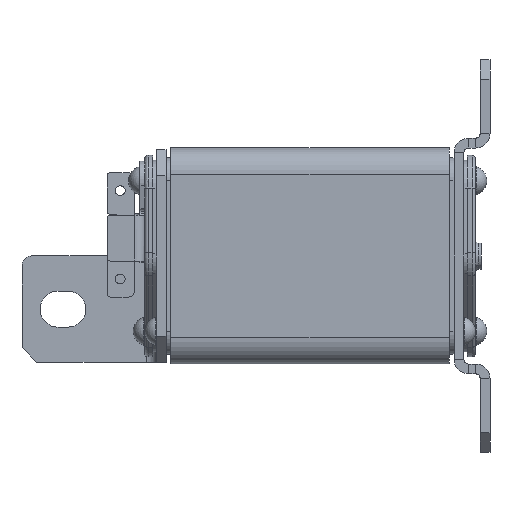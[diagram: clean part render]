
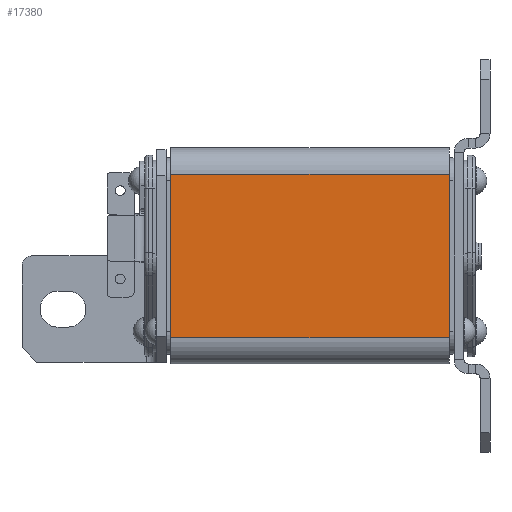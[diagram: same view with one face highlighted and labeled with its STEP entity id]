
A CAD part, left-side view. The second image highlights one B-rep face of the part: STEP entity #17380.
In plain terms, the highlighted planar face has unit normal (-1, 0, 0).
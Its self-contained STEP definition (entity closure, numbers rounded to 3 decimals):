
#2664 = VERTEX_POINT ( 'NONE', #6702 ) ;
#2850 = ORIENTED_EDGE ( 'NONE', *, *, #13664, .T. ) ;
#3760 = EDGE_CURVE ( 'NONE', #4038, #12323, #19824, .T. ) ;
#4038 = VERTEX_POINT ( 'NONE', #15359 ) ;
#4718 = CARTESIAN_POINT ( 'NONE',  ( -33., -42.5, 25. ) ) ;
#4948 = FACE_OUTER_BOUND ( 'NONE', #18845, .T. ) ;
#5195 = LINE ( 'NONE', #15610, #28390 ) ;
#5823 = ORIENTED_EDGE ( 'NONE', *, *, #3760, .F. ) ;
#6482 = VERTEX_POINT ( 'NONE', #15831 ) ;
#6602 = EDGE_CURVE ( 'NONE', #6482, #12323, #8870, .T. ) ;
#6702 = CARTESIAN_POINT ( 'NONE',  ( -33., 42.5, -25. ) ) ;
#7046 = DIRECTION ( 'NONE',  ( 0., -1., 0. ) ) ;
#7802 = LINE ( 'NONE', #14991, #22347 ) ;
#8870 = LINE ( 'NONE', #27105, #25809 ) ;
#9676 = DIRECTION ( 'NONE',  ( 1., 0., 0. ) ) ;
#11967 = EDGE_CURVE ( 'NONE', #2664, #4038, #5195, .T. ) ;
#12323 = VERTEX_POINT ( 'NONE', #4718 ) ;
#12889 = DIRECTION ( 'NONE',  ( 0., -1., 0. ) ) ;
#13664 = EDGE_CURVE ( 'NONE', #2664, #6482, #7802, .T. ) ;
#13728 = DIRECTION ( 'NONE',  ( 0., 0., 1. ) ) ;
#14143 = CARTESIAN_POINT ( 'NONE',  ( -33., 42.5, 25. ) ) ;
#14991 = CARTESIAN_POINT ( 'NONE',  ( -33., 42.5, -25. ) ) ;
#15359 = CARTESIAN_POINT ( 'NONE',  ( -33., 42.5, 25. ) ) ;
#15610 = CARTESIAN_POINT ( 'NONE',  ( -33., 42.5, -25. ) ) ;
#15831 = CARTESIAN_POINT ( 'NONE',  ( -33., -42.5, -25. ) ) ;
#15954 = PLANE ( 'NONE',  #19011 ) ;
#17380 = ADVANCED_FACE ( 'NONE', ( #4948 ), #15954, .F. ) ;
#18845 = EDGE_LOOP ( 'NONE', ( #27360, #5823, #21172, #2850 ) ) ;
#19011 = AXIS2_PLACEMENT_3D ( 'NONE', #22921, #9676, #26976 ) ;
#19824 = LINE ( 'NONE', #14143, #21216 ) ;
#21172 = ORIENTED_EDGE ( 'NONE', *, *, #11967, .F. ) ;
#21216 = VECTOR ( 'NONE', #7046, 1000. ) ;
#22347 = VECTOR ( 'NONE', #12889, 1000. ) ;
#22921 = CARTESIAN_POINT ( 'NONE',  ( -33., 42.5, -25. ) ) ;
#24470 = DIRECTION ( 'NONE',  ( 0., 0., 1. ) ) ;
#25809 = VECTOR ( 'NONE', #13728, 1000. ) ;
#26976 = DIRECTION ( 'NONE',  ( 0., 0., -1. ) ) ;
#27105 = CARTESIAN_POINT ( 'NONE',  ( -33., -42.5, -25. ) ) ;
#27360 = ORIENTED_EDGE ( 'NONE', *, *, #6602, .T. ) ;
#28390 = VECTOR ( 'NONE', #24470, 1000. ) ;
